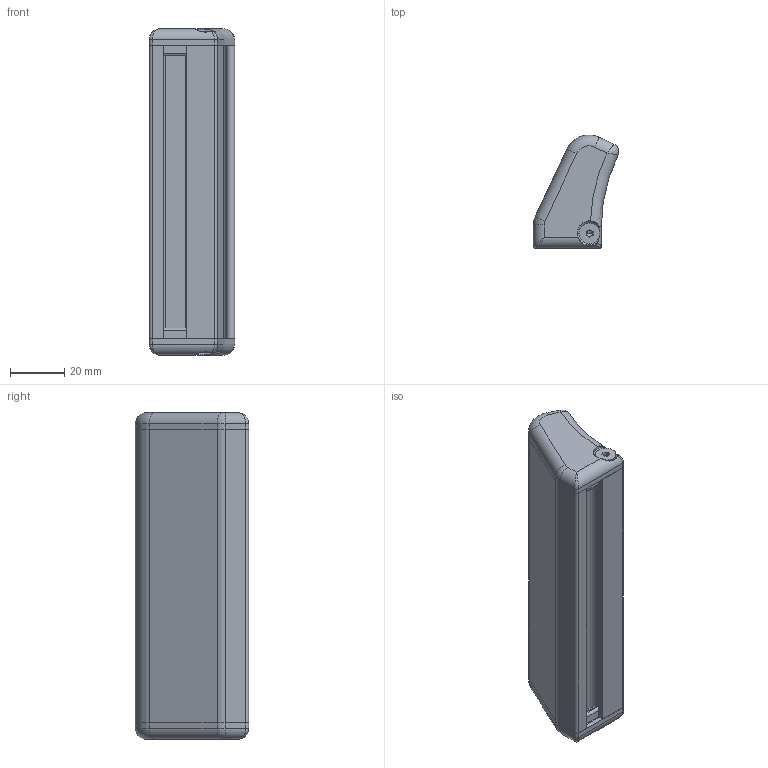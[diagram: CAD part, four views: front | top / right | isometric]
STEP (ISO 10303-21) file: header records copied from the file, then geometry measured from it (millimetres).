
FILE_DESCRIPTION (( 'STEP AP203' ), '1' );
FILE_NAME ('084.506.004.STEP', '2018-03-12T15:59:51', ( '' ), ( '' ), 'SwSTEP 2.0', 'SolidWorks 2016', '' );
FILE_SCHEMA (( 'CONFIG_CONTROL_DESIGN' ));
Length unit declared in the file: millimetre
Products named in the file (5): 084.506.004T SX; 084.506.004; 084.506.004P; socket countersunk head screw_iso_ISO 10642 - M4 x 10 --- 10N; 084.506.004T DX
Assembly tree (5 placements, depth 2):
  084.506.004
    084.506.004P
    084.506.004T DX
    084.506.004T SX
    socket countersunk head screw_iso_ISO 10642 - M4 x 10 --- 10N  x2
Bounding box: 31.4 x 41.63 x 120 mm (x, y, z)
Volume: 39827.5 mm3; surface area: 28325.6 mm2
Topology: 5 solids, 5 shells, 375 faces, 881 edges, 504 vertices
Faces by surface type: cylinder 141, plane 88, torus 86, bspline 24, sphere 20, cone 16
Entity records: 11440 total; most frequent: CARTESIAN_POINT 2919, DIRECTION 1841, ORIENTED_EDGE 1606, EDGE_CURVE 803, AXIS2_PLACEMENT_3D 765, VERTEX_POINT 465, CIRCLE 432, EDGE_LOOP 358
